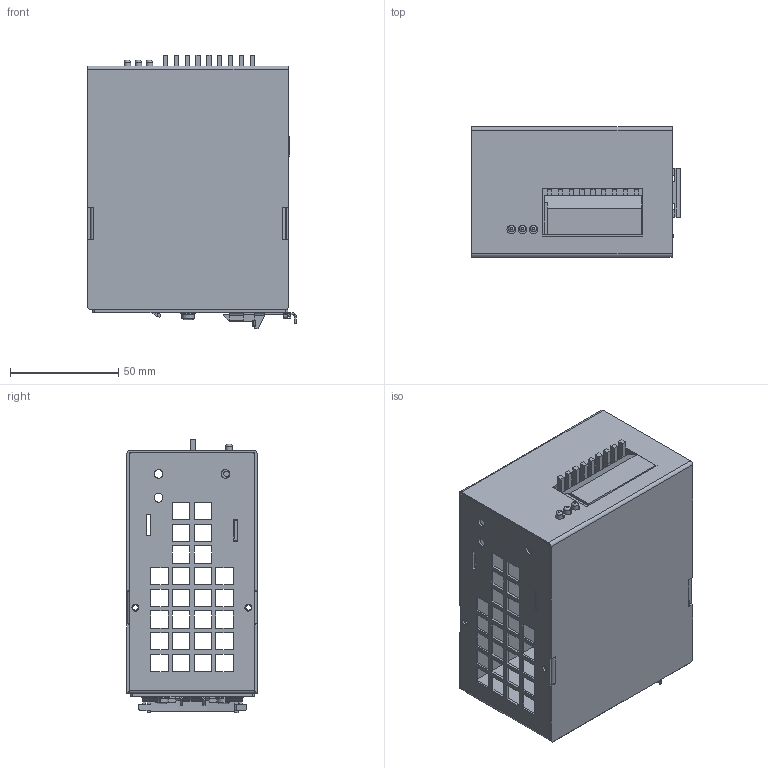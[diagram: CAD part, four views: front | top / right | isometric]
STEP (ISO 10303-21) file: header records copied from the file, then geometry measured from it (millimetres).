
FILE_DESCRIPTION(/* description */ (''),/* implementation_level */ '2;1');
FILE_NAME(/* name */ 'C:\VAULT_WORKSPACE\Designs\EE\0727G20001\0727G20-2000.stp',/* time_stamp */ '2017-03-27T14:35:51+02:00',/* author */ ('aj'),/* organization */ (''),/* preprocessor_version */ 'ST-DEVELOPER v15.6',/* originating_system */ 'Autodesk Inventor 2015',/* authorisation */ '');
FILE_SCHEMA (('CONFIG_CONTROL_DESIGN'));
Length unit declared in the file: millimetre
Products named in the file (7): 0727G02; 1601G99-1010; 1601G99-2012; 1601G99-2060; DIN7500 C M3x6; DIN 6796 - 3; 0727G20-2000
Assembly tree (8 placements, depth 3):
  0727G20-2000
    0727G02
    1601G99-2060
      1601G99-1010
      1601G99-2012
    DIN7500 C M3x6  x2
    DIN 6796 - 3  x2
Bounding box: 96.3 x 60 x 126.2 mm (x, y, z)
Volume: 73766.1 mm3; surface area: 122604.1 mm2
Topology: 28 solids, 28 shells, 914 faces, 2379 edges, 1514 vertices
Faces by surface type: plane 710, cylinder 169, cone 28, bspline 5, torus 2
Full cylindrical faces by diameter (mm): 2.46 x2, 2.5 x4, 2.693 x2, 3 x5, 3.2 x4, 4 x14, 4.1 x2
Entity records: 27228 total; most frequent: CARTESIAN_POINT 5110, ORIENTED_EDGE 4514, DIRECTION 4315, EDGE_CURVE 2250, LINE 1875, VECTOR 1875, VERTEX_POINT 1455, AXIS2_PLACEMENT_3D 1220
